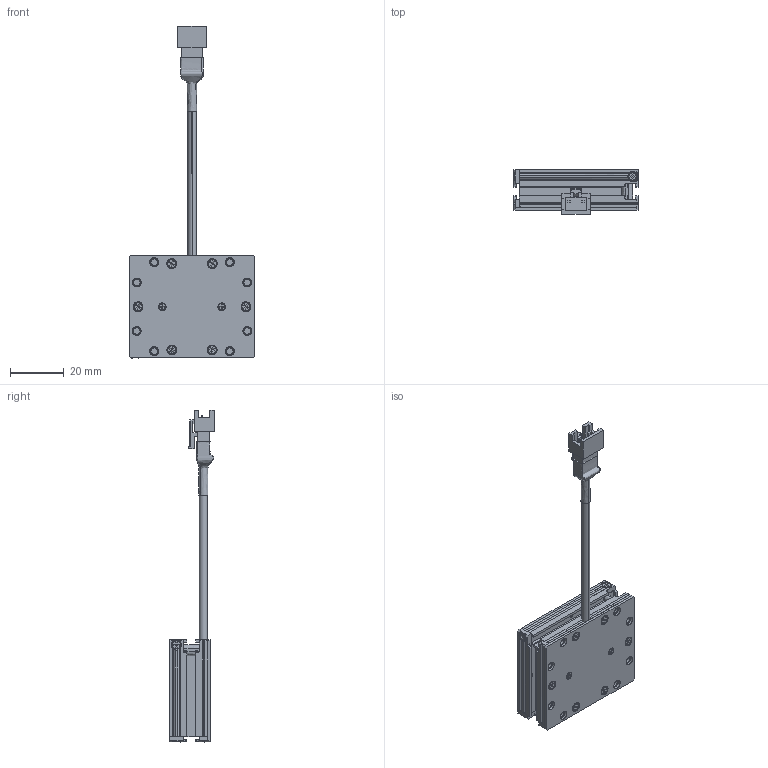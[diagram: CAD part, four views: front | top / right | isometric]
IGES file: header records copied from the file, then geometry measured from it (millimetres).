
Start section: SolidWorks IGES file using analytic representation for surfaces
Global section: file name: C:\Users\user\Downloads\TEMP_STEP\VDF-3325_Drawing_L1178A-A00100.IGS; native system: SolidWorks 2018; preprocessor: SolidWorks 2018; author: user; date: 231221.060129; units: millimetre
Bounding box: 46 x 16.55 x 123.09 mm (x, y, z)
Surface area: 14919.4 mm2 (no closed solid volume)
Topology: 0 solids, 0 shells, 584 faces, 6400 edges, 6400 vertices
Faces by surface type: bspline 388, revolution 196
